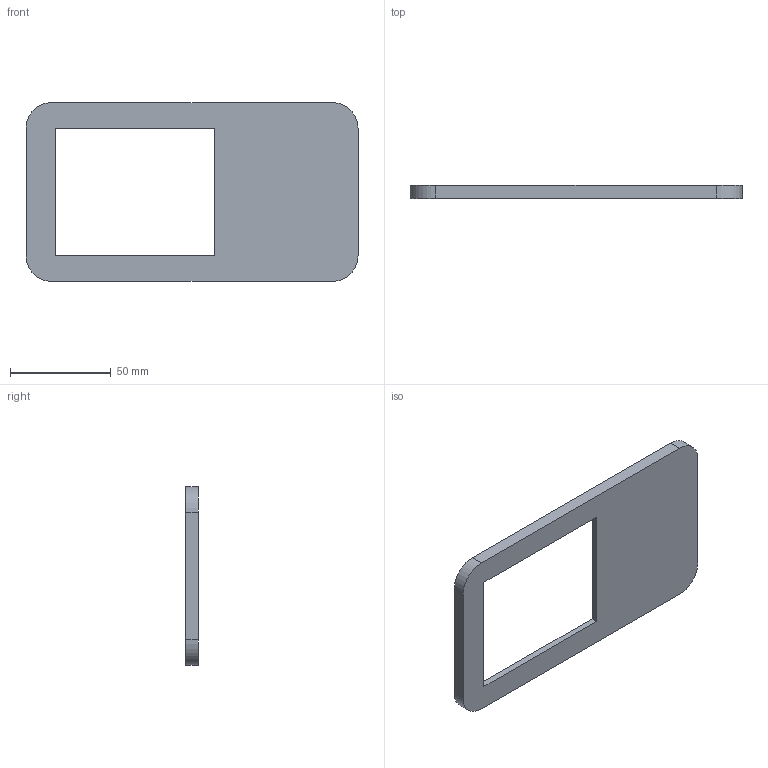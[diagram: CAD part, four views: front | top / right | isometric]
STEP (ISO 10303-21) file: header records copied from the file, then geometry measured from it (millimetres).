
FILE_DESCRIPTION (( 'STEP AP203' ), '1' );
FILE_NAME ('Phone MU Front.STEP', '2025-12-16T02:08:31', ( '' ), ( '' ), 'SwSTEP 2.0', 'SolidWorks 2024', '' );
FILE_SCHEMA (( 'CONFIG_CONTROL_DESIGN' ));
Length unit declared in the file: inch
Products named in the file (1): Phone MU Front
Bounding box: 165.1 x 6.35 x 88.9 mm (x, y, z)
Volume: 33278.1 mm3; surface area: 25367.8 mm2
Topology: 1 solids, 1 shells, 33 faces, 81 edges, 51 vertices
Faces by surface type: cylinder 14, plane 11, torus 8
Entity records: 1064 total; most frequent: DIRECTION 187, CARTESIAN_POINT 166, ORIENTED_EDGE 162, EDGE_CURVE 81, AXIS2_PLACEMENT_3D 72, VERTEX_POINT 51, VECTOR 43, LINE 43
